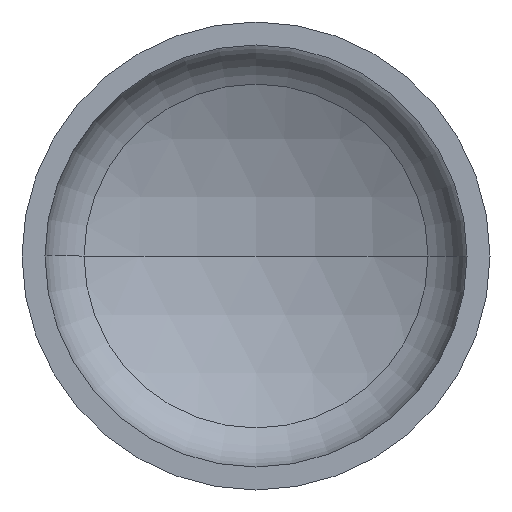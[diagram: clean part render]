
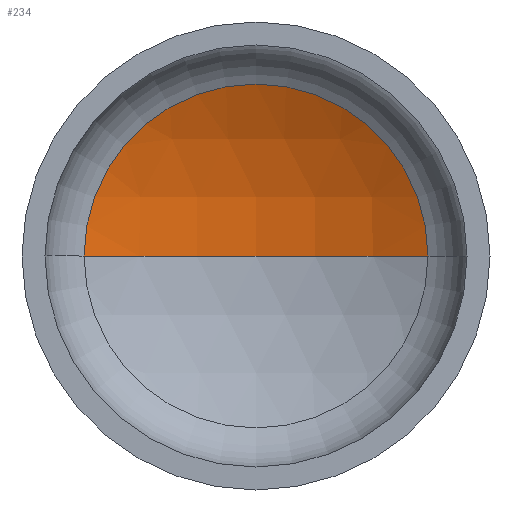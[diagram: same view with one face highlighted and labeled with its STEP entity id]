
A CAD part, front view. The second image highlights one B-rep face of the part: STEP entity #234.
In plain terms, the highlighted spherical face has radius 880 mm.
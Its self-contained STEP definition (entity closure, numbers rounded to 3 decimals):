
#6 = EDGE_LOOP ( 'NONE', ( #87, #136, #100 ) ) ;
#8 = VERTEX_POINT ( 'NONE', #270 ) ;
#15 = AXIS2_PLACEMENT_3D ( 'NONE', #364, #169, #172 ) ;
#16 = AXIS2_PLACEMENT_3D ( 'NONE', #198, #329, #177 ) ;
#19 = DIRECTION ( 'NONE',  ( 0., 0., -1. ) ) ;
#21 = AXIS2_PLACEMENT_3D ( 'NONE', #162, #165, #170 ) ;
#40 = AXIS2_PLACEMENT_3D ( 'NONE', #155, #19, #83 ) ;
#83 = DIRECTION ( 'NONE',  ( -1., 0., 0. ) ) ;
#87 = ORIENTED_EDGE ( 'NONE', *, *, #348, .F. ) ;
#100 = ORIENTED_EDGE ( 'NONE', *, *, #336, .T. ) ;
#101 = VERTEX_POINT ( 'NONE', #188 ) ;
#112 = VERTEX_POINT ( 'NONE', #380 ) ;
#136 = ORIENTED_EDGE ( 'NONE', *, *, #344, .T. ) ;
#155 = CARTESIAN_POINT ( 'NONE',  ( 0., -510.733, 0. ) ) ;
#162 = CARTESIAN_POINT ( 'NONE',  ( 0., 271.021, 0. ) ) ;
#164 = CIRCLE ( 'NONE', #15, 880. ) ;
#165 = DIRECTION ( 'NONE',  ( 0., -1., 0. ) ) ;
#169 = DIRECTION ( 'NONE',  ( 0., 0., 1. ) ) ;
#170 = DIRECTION ( 'NONE',  ( 1., 0., 0. ) ) ;
#172 = DIRECTION ( 'NONE',  ( 1., 0., 0. ) ) ;
#177 = DIRECTION ( 'NONE',  ( -1., 0., 0. ) ) ;
#188 = CARTESIAN_POINT ( 'NONE',  ( 404.056, 271.021, 0. ) ) ;
#195 = SPHERICAL_SURFACE ( 'NONE', #40, 880. ) ;
#198 = CARTESIAN_POINT ( 'NONE',  ( 0., -510.733, 0. ) ) ;
#234 = ADVANCED_FACE ( 'NONE', ( #314 ), #195, .F. ) ;
#270 = CARTESIAN_POINT ( 'NONE',  ( 0., 369.267, 0. ) ) ;
#290 = CIRCLE ( 'NONE', #21, 404.056 ) ;
#298 = CIRCLE ( 'NONE', #16, 880. ) ;
#314 = FACE_OUTER_BOUND ( 'NONE', #6, .T. ) ;
#329 = DIRECTION ( 'NONE',  ( 0., 0., -1. ) ) ;
#336 = EDGE_CURVE ( 'NONE', #101, #112, #290, .T. ) ;
#344 = EDGE_CURVE ( 'NONE', #8, #101, #298, .T. ) ;
#348 = EDGE_CURVE ( 'NONE', #8, #112, #164, .T. ) ;
#364 = CARTESIAN_POINT ( 'NONE',  ( 0., -510.733, 0. ) ) ;
#380 = CARTESIAN_POINT ( 'NONE',  ( -404.056, 271.021, 0. ) ) ;
